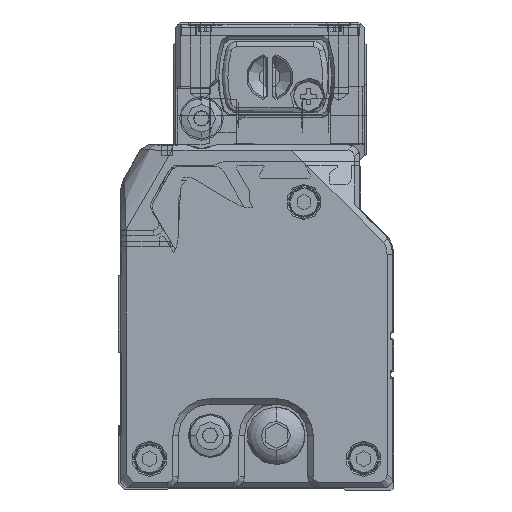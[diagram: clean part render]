
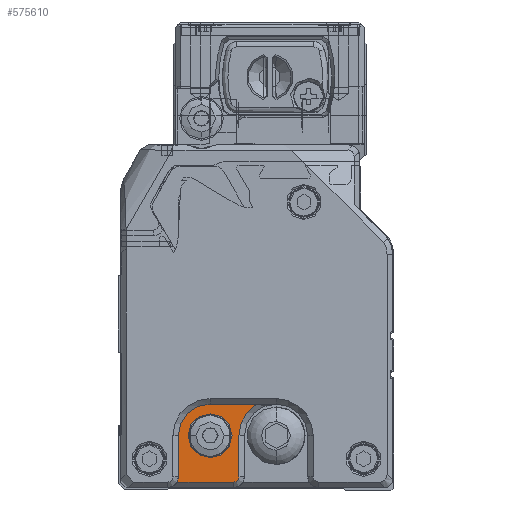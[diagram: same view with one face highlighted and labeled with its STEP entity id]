
A CAD part, left-side view. The second image highlights one B-rep face of the part: STEP entity #575610.
In plain terms, the highlighted planar face has unit normal (-1, 0, 0) as drawn and (1, 0, 0) by its records, which use the part's own axes.
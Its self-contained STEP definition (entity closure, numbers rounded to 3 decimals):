
#574060=CARTESIAN_POINT('',(5864.177,2.462,
3.148));
#574070=DIRECTION('',(-1.,0.,0.));
#574080=DIRECTION('',(0.,1.,0.));
#574090=AXIS2_PLACEMENT_3D('',#574060,#574070,#574080);
#574100=CIRCLE('',#574090,5.75);
#574110=CARTESIAN_POINT('',(5864.177,8.212,
3.148));
#574120=VERTEX_POINT('',#574110);
#574130=CARTESIAN_POINT('',(5864.177,2.462,
-2.602));
#574140=VERTEX_POINT('',#574130);
#574150=EDGE_CURVE('',#574120,#574140,#574100,.T.);
#574560=CARTESIAN_POINT('',(5864.177,8.212,
3.148));
#574570=DIRECTION('',(0.,0.,1.));
#574580=VECTOR('',#574570,1.);
#574590=LINE('',#574560,#574580);
#574600=CARTESIAN_POINT('',(5864.177,8.212,
10.598));
#574610=VERTEX_POINT('',#574600);
#574620=EDGE_CURVE('',#574120,#574610,#574590,.T.);
#574880=CARTESIAN_POINT('',(5864.177,-5.938,
-12.8));
#574890=DIRECTION('',(-1.,0.,0.));
#574900=DIRECTION('',(0.,0.,-1.));
#574910=AXIS2_PLACEMENT_3D('',#574880,#574890,#574900);
#574920=PLANE('',#574910);
#574930=CARTESIAN_POINT('',(5864.177,4.212,
11.598));
#574940=DIRECTION('',(0.,-1.,0.));
#574950=VECTOR('',#574940,1.);
#574960=LINE('',#574930,#574950);
#574970=CARTESIAN_POINT('',(5864.177,8.48,
11.598));
#574980=VERTEX_POINT('',#574970);
#574990=CARTESIAN_POINT('',(5864.177,-1.788,
11.598));
#575000=VERTEX_POINT('',#574990);
#575010=EDGE_CURVE('',#574980,#575000,#574960,.T.);
#575020=ORIENTED_EDGE('',*,*,#575010,.T.);
#575030=CARTESIAN_POINT('',(5864.177,10.212,
10.598));
#575040=DIRECTION('',(-1.,0.,0.));
#575050=DIRECTION('',(0.,1.,0.));
#575060=AXIS2_PLACEMENT_3D('',#575030,#575040,#575050);
#575070=CIRCLE('',#575060,2.);
#575080=EDGE_CURVE('',#574610,#574980,#575070,.T.);
#575090=ORIENTED_EDGE('',*,*,#575080,.T.);
#575100=ORIENTED_EDGE('',*,*,#574620,.T.);
#575110=ORIENTED_EDGE('',*,*,#574150,.F.);
#575120=CARTESIAN_POINT('',(5864.177,-5.888,
-2.602));
#575130=DIRECTION('',(0.,1.,0.));
#575140=VECTOR('',#575130,1.);
#575150=LINE('',#575120,#575140);
#575160=CARTESIAN_POINT('',(5864.177,-6.002,
-2.602));
#575170=VERTEX_POINT('',#575160);
#575180=EDGE_CURVE('',#575170,#574140,#575150,.T.);
#575190=ORIENTED_EDGE('',*,*,#575180,.T.);
#575200=CARTESIAN_POINT('',(5864.177,-9.538,
3.148));
#575210=DIRECTION('',(-1.,0.,0.));
#575220=DIRECTION('',(0.,1.,0.));
#575230=AXIS2_PLACEMENT_3D('',#575200,#575210,#575220);
#575240=CIRCLE('',#575230,6.75);
#575250=CARTESIAN_POINT('',(5864.177,-2.788,
3.148));
#575260=VERTEX_POINT('',#575250);
#575270=EDGE_CURVE('',#575260,#575170,#575240,.T.);
#575280=ORIENTED_EDGE('',*,*,#575270,.T.);
#575290=CARTESIAN_POINT('',(5864.177,-2.788,
6.873));
#575300=DIRECTION('',(0.,0.,-1.));
#575310=VECTOR('',#575300,1.);
#575320=LINE('',#575290,#575310);
#575330=CARTESIAN_POINT('',(5864.177,-2.788,
10.598));
#575340=VERTEX_POINT('',#575330);
#575350=EDGE_CURVE('',#575340,#575260,#575320,.T.);
#575360=ORIENTED_EDGE('',*,*,#575350,.T.);
#575370=CARTESIAN_POINT('',(5864.177,-1.788,
10.598));
#575380=DIRECTION('',(-1.,0.,0.));
#575390=DIRECTION('',(0.,1.,0.));
#575400=AXIS2_PLACEMENT_3D('',#575370,#575380,#575390);
#575410=CIRCLE('',#575400,1.);
#575420=EDGE_CURVE('',#575340,#575000,#575410,.T.);
#575430=ORIENTED_EDGE('',*,*,#575420,.F.);
#575440=EDGE_LOOP('',(#575430,#575360,#575280,#575190,#575110,#575100,
#575090,#575020));
#575450=FACE_OUTER_BOUND('',#575440,.T.);
#575460=CARTESIAN_POINT('',(5864.177,2.462,
3.148));
#575470=DIRECTION('',(-1.,0.,0.));
#575480=DIRECTION('',(0.,0.,-1.));
#575490=AXIS2_PLACEMENT_3D('',#575460,#575470,#575480);
#575500=CIRCLE('',#575490,4.);
#575510=CARTESIAN_POINT('',(5864.177,2.462,
7.148));
#575520=VERTEX_POINT('',#575510);
#575530=CARTESIAN_POINT('',(5864.177,2.462,
-0.852));
#575540=VERTEX_POINT('',#575530);
#575550=EDGE_CURVE('',#575520,#575540,#575500,.T.);
#575560=ORIENTED_EDGE('',*,*,#575550,.T.);
#575570=EDGE_CURVE('',#575540,#575520,#575500,.T.);
#575580=ORIENTED_EDGE('',*,*,#575570,.T.);
#575590=EDGE_LOOP('',(#575580,#575560));
#575600=FACE_BOUND('',#575590,.T.);
#575610=ADVANCED_FACE('',(#575450,#575600),#574920,.F.);
